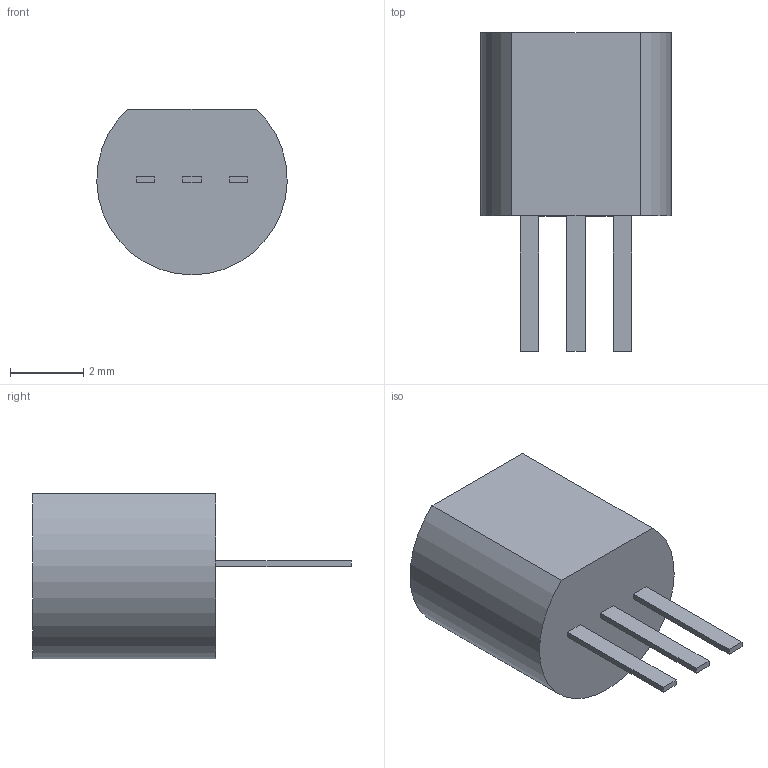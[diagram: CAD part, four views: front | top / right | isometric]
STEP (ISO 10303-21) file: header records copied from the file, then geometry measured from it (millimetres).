
FILE_DESCRIPTION (( 'STEP AP214' ), '1' );
FILE_NAME ('TO-92.step', '2011-06-02T07:51:00', ( 'vpeshkov' ), ( 'licard' ), 'SwSTEP 2.0', 'SolidWorks 2009', '' );
FILE_SCHEMA (( 'AUTOMOTIVE_DESIGN' ));
Length unit declared in the file: millimetre
Products named in the file (1): TO-92
Bounding box: 5.2 x 8.7 x 4.52 mm (x, y, z)
Volume: 98.9 mm3; surface area: 133.9 mm2
Topology: 1 solids, 1 shells, 20 faces, 45 edges, 30 vertices
Faces by surface type: plane 18, cylinder 2
Entity records: 752 total; most frequent: CARTESIAN_POINT 96, DIRECTION 91, ORIENTED_EDGE 90, EDGE_CURVE 45, VECTOR 41, LINE 41, VERTEX_POINT 30, AXIS2_PLACEMENT_3D 25
